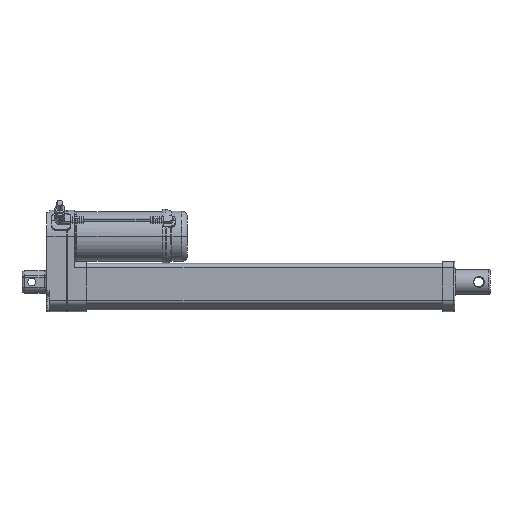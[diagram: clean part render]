
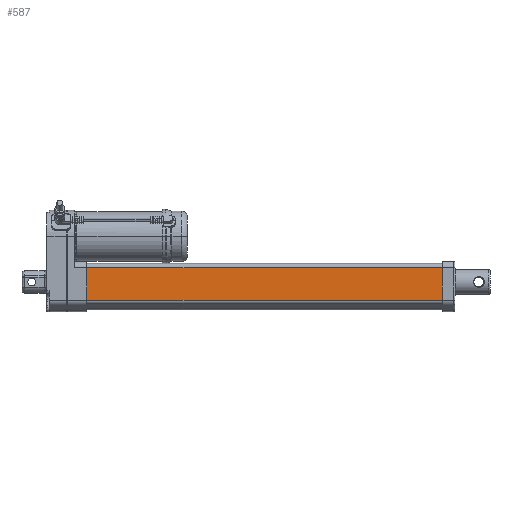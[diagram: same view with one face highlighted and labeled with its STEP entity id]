
A CAD part, top view. The second image highlights one B-rep face of the part: STEP entity #587.
In plain terms, the highlighted planar face has unit normal (0, 0, 1).
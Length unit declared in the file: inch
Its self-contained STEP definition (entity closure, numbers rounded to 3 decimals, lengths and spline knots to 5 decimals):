
#587=ADVANCED_FACE('',(#1588),#1589,.T.);
#1588=FACE_OUTER_BOUND('',#3059,.T.);
#1589=PLANE('',#3060);
#3059=EDGE_LOOP('',(#4889,#4890,#4891,#4892));
#3060=AXIS2_PLACEMENT_3D('',#4893,#4894,#4895);
#4889=ORIENTED_EDGE('',*,*,#9075,.F.);
#4890=ORIENTED_EDGE('',*,*,#9076,.F.);
#4891=ORIENTED_EDGE('',*,*,#9077,.T.);
#4892=ORIENTED_EDGE('',*,*,#9078,.T.);
#4893=CARTESIAN_POINT('',(12.61811,-0.5801,0.76772));
#4894=DIRECTION('',(0.0,-0.0,1.0));
#4895=DIRECTION('',(0.0,1.0,0.0));
#9075=EDGE_CURVE('',#10923,#10924,#10925,.T.);
#9076=EDGE_CURVE('',#10926,#10923,#10927,.T.);
#9077=EDGE_CURVE('',#10926,#10928,#10929,.T.);
#9078=EDGE_CURVE('',#10928,#10924,#10930,.T.);
#10923=VERTEX_POINT('',#13551);
#10924=VERTEX_POINT('',#13552);
#10925=LINE('',#13553,#13554);
#10926=VERTEX_POINT('',#13555);
#10927=LINE('',#13556,#13557);
#10928=VERTEX_POINT('',#13558);
#10929=LINE('',#13559,#13560);
#10930=LINE('',#13561,#13562);
#13551=CARTESIAN_POINT('',(1.27953,-0.5801,0.76772));
#13552=CARTESIAN_POINT('',(1.27953,0.45276,0.76772));
#13553=CARTESIAN_POINT('',(1.27953,0.45276,0.76772));
#13554=VECTOR('',#16858,39.37008);
#13555=CARTESIAN_POINT('',(12.61811,-0.5801,0.76772));
#13556=CARTESIAN_POINT('',(12.61811,-0.5801,0.76772));
#13557=VECTOR('',#16859,39.37008);
#13558=CARTESIAN_POINT('',(12.61811,0.45276,0.76772));
#13559=CARTESIAN_POINT('',(12.61811,-0.5801,0.76772));
#13560=VECTOR('',#16860,39.37008);
#13561=CARTESIAN_POINT('',(12.61811,0.45276,0.76772));
#13562=VECTOR('',#16861,39.37008);
#16858=DIRECTION('',(0.0,1.0,0.0));
#16859=DIRECTION('',(-1.0,0.0,0.0));
#16860=DIRECTION('',(0.0,1.0,0.0));
#16861=DIRECTION('',(-1.0,0.0,0.0));
